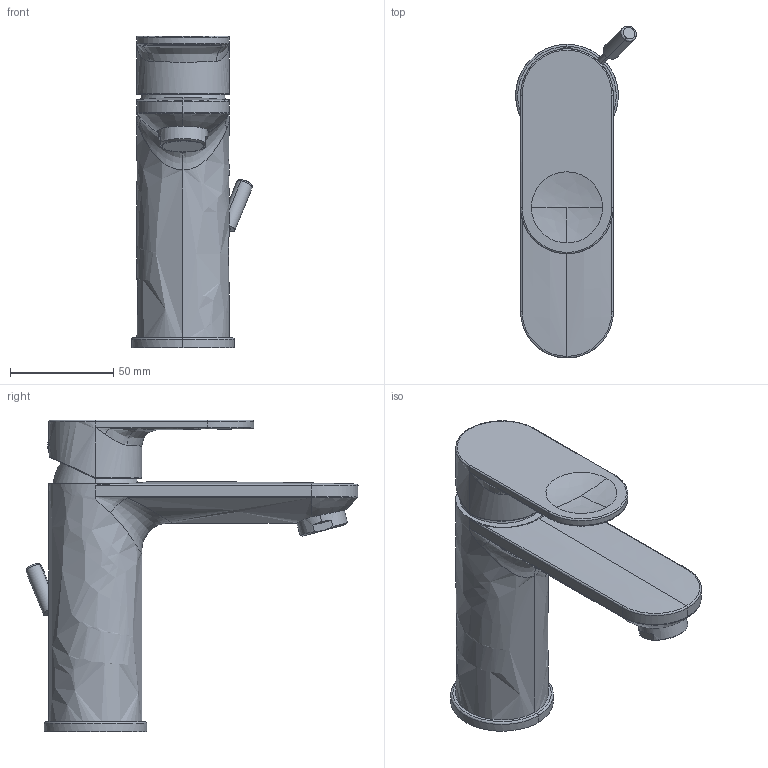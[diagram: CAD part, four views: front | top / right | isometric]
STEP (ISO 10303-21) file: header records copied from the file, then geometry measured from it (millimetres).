
FILE_DESCRIPTION(/* description */ (''),/* implementation_level */ '2;1');
FILE_NAME(/* name */ 'B31010001010_neu',/* time_stamp */ '2019-02-25T15:03:57+01:00',/* author */ (''),/* organization */ (''),/* preprocessor_version */ 'ST-DEVELOPER v15',/* originating_system */ '',/* authorisation */ '');
FILE_SCHEMA (('AUTOMOTIVE_DESIGN'));
Length unit declared in the file: millimetre
Products named in the file (1): Document
Bounding box: 58.54 x 161.15 x 151.35 mm (x, y, z)
Volume: 3738.6 mm3; surface area: 48485.1 mm2
Topology: 1 solids, 7 shells, 124 faces, 304 edges, 189 vertices
Faces by surface type: bspline 124
Entity records: 16036 total; most frequent: CARTESIAN_POINT 12346, B_SPLINE_CURVE_WITH_KNOTS 670, ORIENTED_EDGE 579, PCURVE 579, DEFINITIONAL_REPRESENTATION 579, SURFACE_CURVE 299, EDGE_CURVE 299, VERTEX_POINT 189
